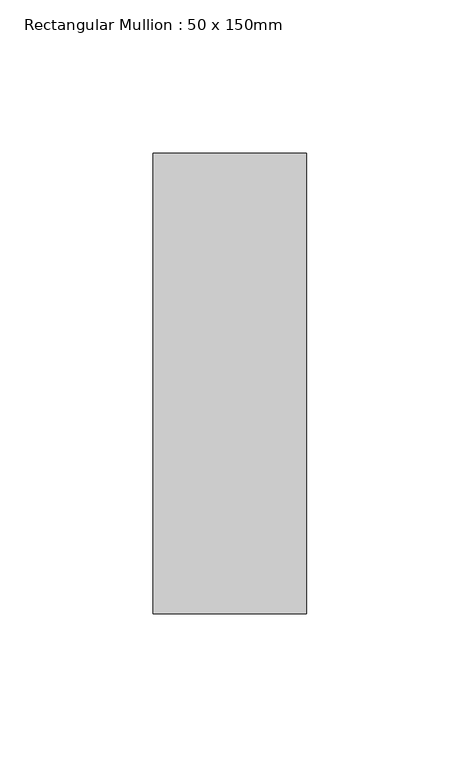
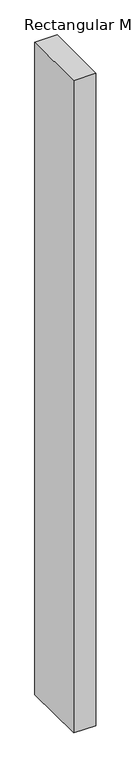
"""IFC4 building model written with IfcOpenShell, lengths in millimetres: member geometry, Rectangular Mullion : 50 x 150mm."""

import ifcopenshell
import ifcopenshell.guid

model = None  # the IFC model being written
_history = None  # IfcOwnerHistory: only IFC2X3 demands one
_inside = {}  # id of a spatial element -> (the spatial element, [elements in it])
_under = {}  # id of a project, library or spatial element -> (it, [spatial elements below it])
_declared = {}  # id of a project -> (the project, [libraries it declares])
_typed = {}  # id of a type object -> (the type object, [elements of that type])
_made_of = {}  # id of a material, layer set ... -> (it, [elements and type objects made of it])


def new_model(schema):
    """Start an empty IFC model of exactly this schema.

    Asked for "IFC4X3", IfcOpenShell would pick the latest addendum, in which some entities
    have other attributes; the version numbers below select the first issue.
    IFC2X3 requires an IfcOwnerHistory on every rooted entity: one is made here for all.
    """
    global model, _history
    if schema == "IFC4X3":
        model = ifcopenshell.file(schema_version=(4, 3, 0, 0))
    else:
        model = ifcopenshell.file(schema=schema)
    _inside.clear()
    _under.clear()
    _declared.clear()
    _typed.clear()
    _made_of.clear()
    _history = None
    if model.schema == "IFC2X3":
        org = make("IfcOrganization", Name="unknown")
        user = make(
            "IfcPersonAndOrganization",
            ThePerson=make("IfcPerson", FamilyName="unknown"),
            TheOrganization=org,
        )
        app = make(
            "IfcApplication",
            ApplicationDeveloper=org,
            Version="unknown",
            ApplicationFullName="unknown",
            ApplicationIdentifier="unknown",
        )
        _history = make(
            "IfcOwnerHistory",
            OwningUser=user,
            OwningApplication=app,
            ChangeAction="ADDED",
            CreationDate=0,
        )
    return model


def make(cls, **values):
    """One entity of the class cls with the attributes given. An attribute that is None is left unset."""
    return model.create_entity(
        cls, **{name: value for name, value in values.items() if value is not None}
    )


def rooted(cls, **values):
    """An entity with a GlobalId (a new one), such as an element, a storey or a relation."""
    return make(cls, GlobalId=ifcopenshell.guid.new(), OwnerHistory=_history, **values)


def si_unit(unit_type, name, prefix=None):
    """IfcSIUnit, for example si_unit("LENGTHUNIT", "METRE", prefix="MILLI")."""
    return make("IfcSIUnit", UnitType=unit_type, Prefix=prefix, Name=name)


def assignment(units):
    """IfcUnitAssignment: the units of a project."""
    return None if units is None else make("IfcUnitAssignment", Units=units)


def point(xyz):
    """IfcCartesianPoint."""
    return None if xyz is None else make("IfcCartesianPoint", Coordinates=xyz)


def direction(xyz):
    """IfcDirection."""
    return None if xyz is None else make("IfcDirection", DirectionRatios=xyz)


def frame(location, z_axis=None, x_axis=None):
    """IfcAxis2Placement3D, a coordinate frame: its origin and axes. An axis left out is left unset."""
    return make(
        "IfcAxis2Placement3D",
        Location=point(location),
        Axis=direction(z_axis),
        RefDirection=direction(x_axis),
    )


def origin():
    """The frame at (0, 0, 0) with its axes left unset."""
    return frame((0.0, 0.0, 0.0))


def place(relative_to, where):
    """IfcLocalPlacement: puts the frame where relative to a parent placement (None: the world)."""
    return make(
        "IfcLocalPlacement", PlacementRelTo=relative_to, RelativePlacement=where
    )


def context(
    kind, dimensions, precision=None, world=None, true_north=None, identifier=None
):
    """IfcGeometricRepresentationContext, for example the 3D "Model" context."""
    return make(
        "IfcGeometricRepresentationContext",
        ContextIdentifier=identifier,
        ContextType=kind,
        CoordinateSpaceDimension=dimensions,
        Precision=precision,
        WorldCoordinateSystem=world,
        TrueNorth=true_north,
    )


def project(units=None, contexts=None):
    """IfcProject with its units and contexts."""
    return rooted(
        "IfcProject",
        Name="project",
        RepresentationContexts=contexts,
        UnitsInContext=assignment(units),
    )


def spatial(cls, under=None, at=None, **own):
    """A site, building, storey or space (cls), placed at a placement, below another one or the project."""
    s = rooted(cls, ObjectPlacement=at, **own)
    if under is not None:
        _under.setdefault(under.id(), (under, []))[1].append(s)
    return s


def polyline(points):
    """IfcPolyline through the points."""
    return make("IfcPolyline", Points=[point(p) for p in points])


def outline(outer, holes=None, kind="AREA"):
    """IfcArbitraryClosedProfileDef: a profile drawn as a closed curve; with holes, ...WithVoids."""
    if holes is None:
        return make("IfcArbitraryClosedProfileDef", ProfileType=kind, OuterCurve=outer)
    return make(
        "IfcArbitraryProfileDefWithVoids",
        ProfileType=kind,
        OuterCurve=outer,
        InnerCurves=holes,
    )


def extrude(swept, where, along, depth):
    """IfcExtrudedAreaSolid: the profile swept, set in the frame where, extruded along a direction by depth."""
    return make(
        "IfcExtrudedAreaSolid",
        SweptArea=swept,
        Position=where,
        ExtrudedDirection=direction(along),
        Depth=depth,
    )


def shape(context_of_items, identifier, shape_type, items):
    """IfcShapeRepresentation: the items that make up one representation, for example the "Body"."""
    return make(
        "IfcShapeRepresentation",
        ContextOfItems=context_of_items,
        RepresentationIdentifier=identifier,
        RepresentationType=shape_type,
        Items=items,
    )


def source(mapping_origin, context_of_items, identifier, shape_type, items):
    """IfcRepresentationMap: a shape defined once, which mapped items show again and again."""
    return make(
        "IfcRepresentationMap",
        MappingOrigin=mapping_origin,
        MappedRepresentation=shape(context_of_items, identifier, shape_type, items),
    )


def transform(
    local_origin,
    x_axis=None,
    y_axis=None,
    z_axis=None,
    scale=None,
    scale2=None,
    scale3=None,
    uniform=True,
):
    """IfcCartesianTransformationOperator3D, or its non-uniform kind. x_axis, y_axis, z_axis: its Axis1, 2, 3."""
    if uniform:
        return make(
            "IfcCartesianTransformationOperator3D",
            Axis1=direction(x_axis),
            Axis2=direction(y_axis),
            LocalOrigin=point(local_origin),
            Scale=scale,
            Axis3=direction(z_axis),
        )
    return make(
        "IfcCartesianTransformationOperator3DnonUniform",
        Axis1=direction(x_axis),
        Axis2=direction(y_axis),
        LocalOrigin=point(local_origin),
        Scale=scale,
        Axis3=direction(z_axis),
        Scale2=scale2,
        Scale3=scale3,
    )


def mapped(mapping_source, mapping_target):
    """IfcMappedItem: shows the shape of a source again, moved by a transform."""
    return make(
        "IfcMappedItem", MappingSource=mapping_source, MappingTarget=mapping_target
    )


def made_of(thing, what):
    """Note that an element or type object is made of a material, layer set ...; save() writes the relation."""
    if what is not None:
        _made_of.setdefault(what.id(), (what, []))[1].append(thing)
    return thing


def element(
    cls,
    number,
    at=None,
    inside=None,
    cuts=None,
    type_object=None,
    material=None,
    context=None,
    identifier="Body",
    shape_type=None,
    held_by="IfcProductDefinitionShape",
    body=None,
    shapes=None,
    **own,
):
    """One element of the class cls, such as IfcWall. Its Tag is "e" and its number.

    at: its placement. inside: the storey or other place that contains it. cuts: it is an
    opening in that element (IfcRelVoidsElement). A single representation is given by context,
    identifier, shape_type and body (its items); several are given by shapes. held_by: the class
    of the entity that holds the representations. save() writes the other relations.
    """
    e = rooted(cls, Tag="e%d" % number, ObjectPlacement=at, **own)
    if body is not None:
        shapes = [shape(context, identifier, shape_type, body)]
    if shapes is not None:
        e.Representation = make(held_by, Representations=shapes)
    if inside is not None:
        _inside.setdefault(inside.id(), (inside, []))[1].append(e)
    if cuts is not None:
        rooted(
            "IfcRelVoidsElement", RelatingBuildingElement=cuts, RelatedOpeningElement=e
        )
    if type_object is not None:
        _typed.setdefault(type_object.id(), (type_object, []))[1].append(e)
    return made_of(e, material)


def aggregate(whole, parts):
    """IfcRelAggregates: a whole, such as a stair, and the parts it consists of."""
    return rooted("IfcRelAggregates", RelatingObject=whole, RelatedObjects=parts)


def save(model, path):
    """Write the relations noted so far, then the file.

    IfcRelAggregates (storeys below a building ...), IfcRelContainedInSpatialStructure (elements
    in a storey), IfcRelDefinesByType, IfcRelAssociatesMaterial and IfcRelDeclares: one each for
    every whole, place, type object, material and project.
    """
    for whole, parts in _under.values():
        aggregate(whole, parts)
    for where, things in _inside.values():
        rooted(
            "IfcRelContainedInSpatialStructure",
            RelatedElements=things,
            RelatingStructure=where,
        )
    for kind, things in _typed.values():
        rooted("IfcRelDefinesByType", RelatedObjects=things, RelatingType=kind)
    for what, things in _made_of.values():
        rooted("IfcRelAssociatesMaterial", RelatedObjects=things, RelatingMaterial=what)
    for by, libraries in _declared.values():
        rooted("IfcRelDeclares", RelatingContext=by, RelatedDefinitions=libraries)
    model.write(path)


def rectangular_mullion_50_x_150mm_b3206fb7(model_context):
    return source(origin(), model_context, "Body", "SweptSolid", [
        extrude(outline(polyline([(0.0, 0.0), (-0.1614032, -50.0), (-1544.0851845, -50.0), (-1544.3705966, 0.0), (0.0, 0.0)])), frame((0.0, -75.0, 0.0), z_axis=(0.0, 1.0, 0.0), x_axis=(0.0, 0.0, 1.0)), (0.0, 0.0, 1.0), 150.0),
    ])


if __name__ == "__main__":
    model = new_model("IFC4")
    model_context = context("Model", 3, world=origin())
    ifc_project = project(units=[si_unit("LENGTHUNIT", "METRE", prefix="MILLI")], contexts=[model_context])
    site = spatial("IfcSite", under=ifc_project)
    building = spatial("IfcBuilding", under=site)
    placement = place(None, origin())
    rectangular_mullion_50_x_150mm_shape = rectangular_mullion_50_x_150mm_b3206fb7(model_context)
    element("IfcMember", 1, ObjectType="Rectangular Mullion : 50 x 150mm", at=placement, inside=building, context=model_context, shape_type="MappedRepresentation", body=[
        mapped(rectangular_mullion_50_x_150mm_shape, transform((0.0, 0.0, 0.0), x_axis=(1.0, 0.0, 0.0), y_axis=(0.0, 1.0, 0.0), z_axis=(0.0, 0.0, 1.0))),
    ])
    save(model, "model.ifc")
